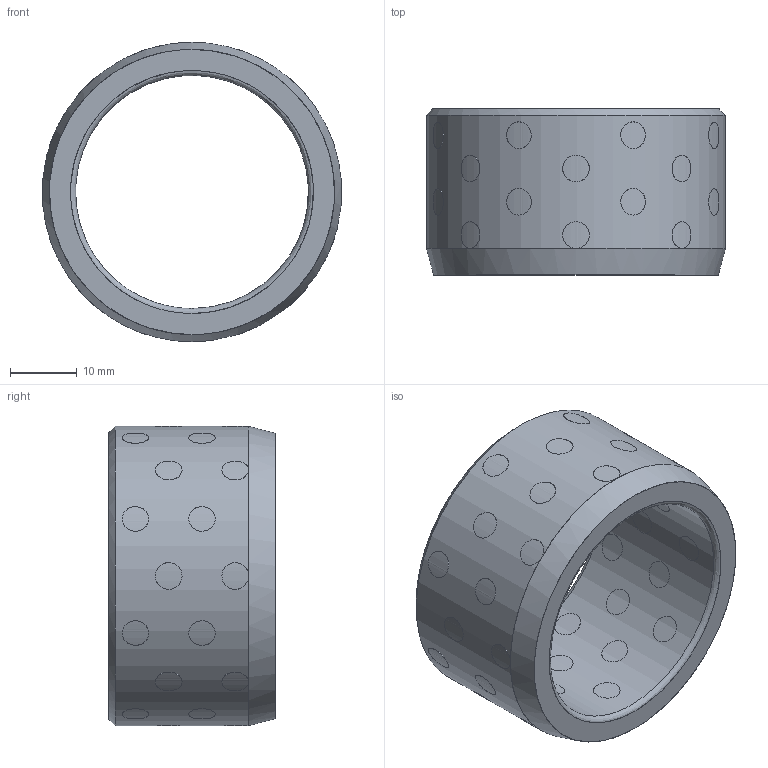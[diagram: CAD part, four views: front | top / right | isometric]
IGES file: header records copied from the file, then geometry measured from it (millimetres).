
Start section: Missler Software BP 521, 31674 Labege Cedex, France Tel   : +33 (0)5 61 00 03 00 Fax   : +33 (0)5 61 00 03 03 Email : sup.topsolid@topsolid.com
Global section: file name: D:\Cuma\18 03 2010\D30.04-2\D30.04_352545.igs; native system: TopSolid v605250 Missler Software; preprocessor: IGES preprocessor v100000; date: 030126.005753; units: millimetre
Bounding box: 45 x 25 x 45 mm (x, y, z)
Surface area: 10786.4 mm2 (no closed solid volume)
Topology: 0 solids, 0 shells, 128 faces, 2629 edges, 2544 vertices
Faces by surface type: bspline 128
